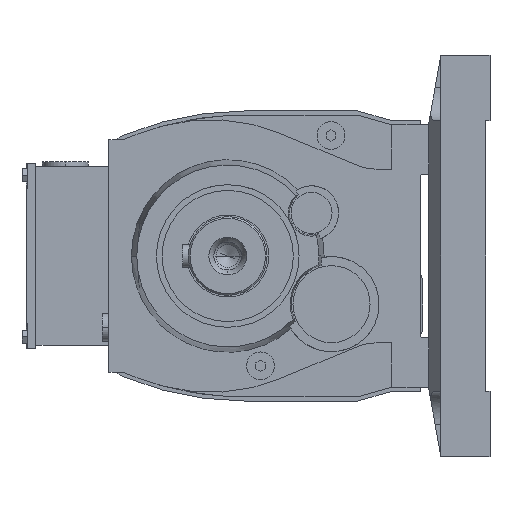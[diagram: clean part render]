
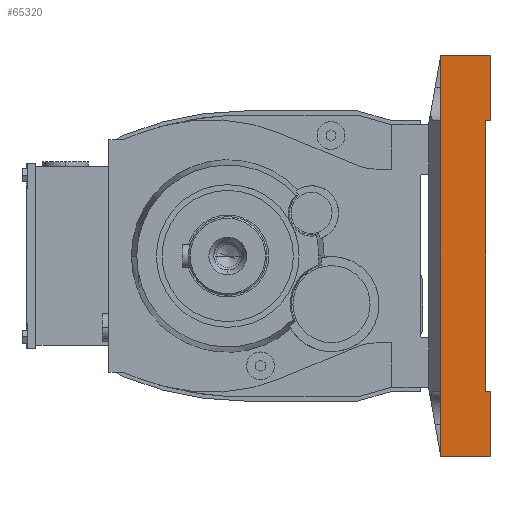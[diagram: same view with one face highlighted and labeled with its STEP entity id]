
A CAD part, left-side view. The second image highlights one B-rep face of the part: STEP entity #65320.
In plain terms, the highlighted planar face has unit normal (-1, 0, 0).
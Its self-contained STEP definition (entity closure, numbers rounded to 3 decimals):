
#56170=CARTESIAN_POINT('',(55.,-157.5,-82.5));
#56180=VERTEX_POINT('',#56170);
#56210=CARTESIAN_POINT('',(55.,-157.5,0.));
#56220=DIRECTION('',(0.,0.,-1.));
#56230=VECTOR('',#56220,1.);
#56240=LINE('',#56210,#56230);
#56250=CARTESIAN_POINT('',(55.,-157.5,82.5));
#56260=VERTEX_POINT('',#56250);
#56270=EDGE_CURVE('',#56260,#56180,#56240,.T.);
#56790=CARTESIAN_POINT('',(55.,-130.,122.5));
#56800=VERTEX_POINT('',#56790);
#56830=CARTESIAN_POINT('',(55.,-130.,0.));
#56840=DIRECTION('',(0.,0.,-1.));
#56850=VECTOR('',#56840,1.);
#56860=LINE('',#56830,#56850);
#56870=CARTESIAN_POINT('',(55.,-130.,82.5));
#56880=VERTEX_POINT('',#56870);
#56890=EDGE_CURVE('',#56800,#56880,#56860,.T.);
#58840=CARTESIAN_POINT('',(55.,-160.,82.5));
#58850=VERTEX_POINT('',#58840);
#58880=CARTESIAN_POINT('',(55.,-160.,0.));
#58890=DIRECTION('',(0.,0.,1.));
#58900=VECTOR('',#58890,1.);
#58910=LINE('',#58880,#58900);
#58920=CARTESIAN_POINT('',(55.,-160.,122.5));
#58930=VERTEX_POINT('',#58920);
#58940=EDGE_CURVE('',#58850,#58930,#58910,.T.);
#60870=CARTESIAN_POINT('',(55.,-130.,0.));
#60880=DIRECTION('',(0.,0.,-1.));
#60890=VECTOR('',#60880,1.);
#60900=LINE('',#60870,#60890);
#60910=CARTESIAN_POINT('',(55.,-130.,-82.5));
#60920=VERTEX_POINT('',#60910);
#60930=EDGE_CURVE('',#56880,#60920,#60900,.T.);
#61330=CARTESIAN_POINT('',(55.,-130.,-122.5));
#61340=VERTEX_POINT('',#61330);
#61370=CARTESIAN_POINT('',(55.,0.,-122.5));
#61380=DIRECTION('',(0.,1.,0.));
#61390=VECTOR('',#61380,1.);
#61400=LINE('',#61370,#61390);
#61410=CARTESIAN_POINT('',(55.,-160.,-122.5));
#61420=VERTEX_POINT('',#61410);
#61430=EDGE_CURVE('',#61420,#61340,#61400,.T.);
#64880=CARTESIAN_POINT('',(55.,-160.,0.));
#64890=DIRECTION('',(-1.,0.,0.));
#64900=DIRECTION('',(0.,1.,0.));
#64910=AXIS2_PLACEMENT_3D('',#64880,#64890,#64900);
#64920=PLANE('',#64910);
#64930=CARTESIAN_POINT('',(55.,0.,-82.5));
#64940=DIRECTION('',(0.,1.,0.));
#64950=VECTOR('',#64940,1.);
#64960=LINE('',#64930,#64950);
#64970=CARTESIAN_POINT('',(55.,-160.,-82.5));
#64980=VERTEX_POINT('',#64970);
#64990=EDGE_CURVE('',#64980,#56180,#64960,.T.);
#65000=ORIENTED_EDGE('',*,*,#64990,.T.);
#65010=CARTESIAN_POINT('',(55.,-160.,0.));
#65020=DIRECTION('',(0.,0.,-1.));
#65030=VECTOR('',#65020,1.);
#65040=LINE('',#65010,#65030);
#65050=EDGE_CURVE('',#64980,#61420,#65040,.T.);
#65060=ORIENTED_EDGE('',*,*,#65050,.F.);
#65070=ORIENTED_EDGE('',*,*,#61430,.F.);
#65080=CARTESIAN_POINT('',(55.,-130.,0.));
#65090=DIRECTION('',(0.,0.,1.));
#65100=VECTOR('',#65090,1.);
#65110=LINE('',#65080,#65100);
#65120=EDGE_CURVE('',#61340,#60920,#65110,.T.);
#65130=ORIENTED_EDGE('',*,*,#65120,.F.);
#65140=ORIENTED_EDGE('',*,*,#60930,.T.);
#65150=ORIENTED_EDGE('',*,*,#56890,.T.);
#65160=CARTESIAN_POINT('',(55.,0.,122.5));
#65170=DIRECTION('',(0.,1.,0.));
#65180=VECTOR('',#65170,1.);
#65190=LINE('',#65160,#65180);
#65200=EDGE_CURVE('',#58930,#56800,#65190,.T.);
#65210=ORIENTED_EDGE('',*,*,#65200,.T.);
#65220=ORIENTED_EDGE('',*,*,#58940,.T.);
#65230=CARTESIAN_POINT('',(55.,0.,82.5));
#65240=DIRECTION('',(0.,1.,0.));
#65250=VECTOR('',#65240,1.);
#65260=LINE('',#65230,#65250);
#65270=EDGE_CURVE('',#58850,#56260,#65260,.T.);
#65280=ORIENTED_EDGE('',*,*,#65270,.F.);
#65290=ORIENTED_EDGE('',*,*,#56270,.F.);
#65300=EDGE_LOOP('',(#65290,#65280,#65220,#65210,#65150,#65140,#65130,#65070,#65060,#65000));
#65310=FACE_OUTER_BOUND('',#65300,.T.);
#65320=ADVANCED_FACE('',(#65310),#64920,.T.);
